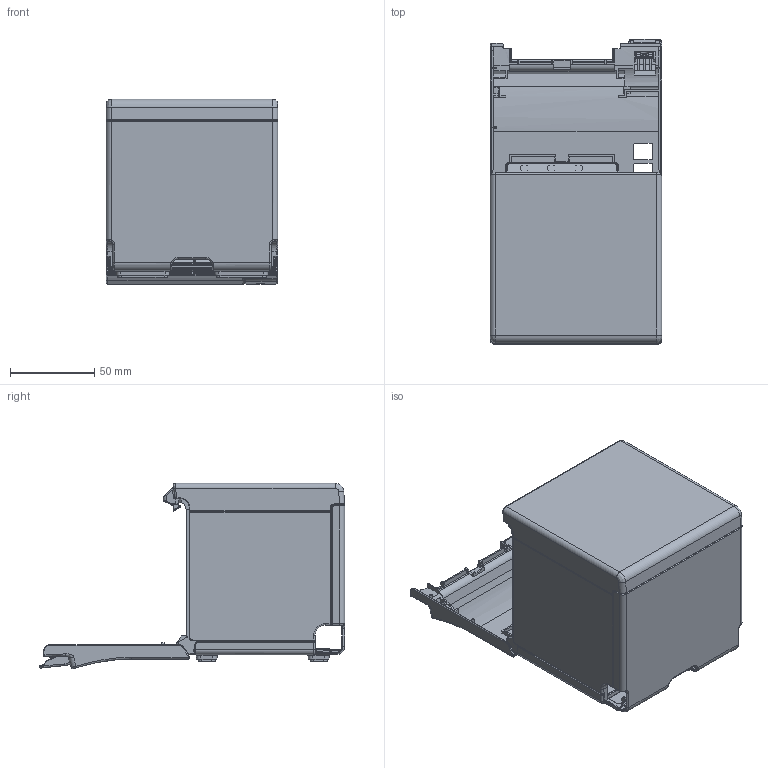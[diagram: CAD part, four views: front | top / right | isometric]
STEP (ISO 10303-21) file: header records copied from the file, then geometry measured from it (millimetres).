
FILE_DESCRIPTION((''),'2;1');
FILE_NAME('TM-M10_FRONT_OPEN_SW','2025-01-23T11:30:27',('0092109'),(''),'CREO PARAMETRIC BY PTC INC, 2022281','CREO PARAMETRIC BY PTC INC, 2022281','');
FILE_SCHEMA(('AUTOMOTIVE_DESIGN { 1 0 10303 214 1 1 1 1 }'));
Products named in the file (1): TM-M10_FRONT_OPEN_SW
Bounding box: 102 x 181.55 x 110.27 mm (x, y, z)
Surface area: 149753 mm2 (no closed solid volume)
Topology: 0 solids, 12 shells, 2063 faces, 5917 edges, 3820 vertices
Faces by surface type: plane 970, cylinder 685, torus 243, bspline 103, cone 35, sphere 26, extrusion 1
Entity records: 76036 total; most frequent: CARTESIAN_POINT 22210, DIRECTION 11260, ORIENTED_EDGE 10983, EDGE_CURVE 5917, VERTEX_POINT 3820, VECTOR 3756, LINE 3755, AXIS2_PLACEMENT_3D 3752
